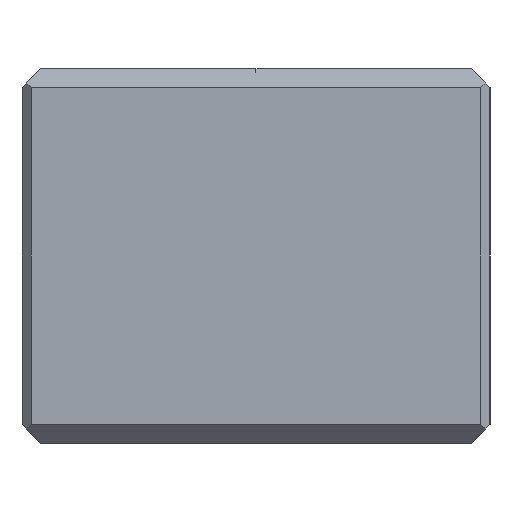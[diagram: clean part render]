
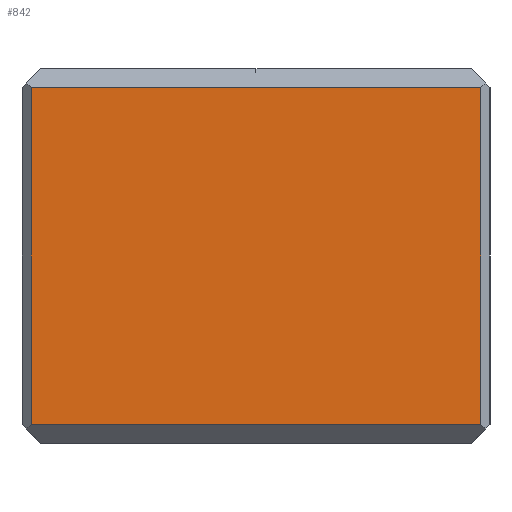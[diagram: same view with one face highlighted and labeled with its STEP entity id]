
A CAD part, left-side view. The second image highlights one B-rep face of the part: STEP entity #842.
In plain terms, the highlighted planar face has unit normal (-1, 0, 0).
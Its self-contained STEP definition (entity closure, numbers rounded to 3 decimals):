
#451=CARTESIAN_POINT('Vertex',(-50.,24.,38.)) ;
#454=CARTESIAN_POINT('Line Origine',(-50.,0.,38.)) ;
#458=CARTESIAN_POINT('Vertex',(-50.,-24.,38.)) ;
#802=CARTESIAN_POINT('Vertex',(-50.,24.,2.)) ;
#805=CARTESIAN_POINT('Line Origine',(-50.,24.,20.)) ;
#819=CARTESIAN_POINT('Axis2P3D Location',(-50.,25.,40.)) ;
#824=CARTESIAN_POINT('Line Origine',(-50.,0.,2.)) ;
#828=CARTESIAN_POINT('Vertex',(-50.,-24.,2.)) ;
#831=CARTESIAN_POINT('Line Origine',(-50.,-24.,20.)) ;
#455=DIRECTION('Vector Direction',(0.,1.,0.)) ;
#806=DIRECTION('Vector Direction',(0.,0.,-1.)) ;
#820=DIRECTION('Axis2P3D Direction',(1.,0.,-0.)) ;
#821=DIRECTION('Axis2P3D XDirection',(-0.,0.,-1.)) ;
#825=DIRECTION('Vector Direction',(0.,-1.,0.)) ;
#832=DIRECTION('Vector Direction',(0.,0.,1.)) ;
#822=AXIS2_PLACEMENT_3D('Plane Axis2P3D',#819,#820,#821) ;
#837=ORIENTED_EDGE('',*,*,#460,.T.) ;
#838=ORIENTED_EDGE('',*,*,#809,.T.) ;
#839=ORIENTED_EDGE('',*,*,#830,.T.) ;
#840=ORIENTED_EDGE('',*,*,#835,.T.) ;
#456=VECTOR('Line Direction',#455,1.) ;
#807=VECTOR('Line Direction',#806,1.) ;
#826=VECTOR('Line Direction',#825,1.) ;
#833=VECTOR('Line Direction',#832,1.) ;
#842=ADVANCED_FACE('Smusso4',(#841),#823,.F.) ;
#460=EDGE_CURVE('',#459,#452,#457,.T.) ;
#809=EDGE_CURVE('',#452,#803,#808,.T.) ;
#830=EDGE_CURVE('',#803,#829,#827,.T.) ;
#835=EDGE_CURVE('',#829,#459,#834,.T.) ;
#836=EDGE_LOOP('',(#837,#838,#839,#840)) ;
#841=FACE_OUTER_BOUND('',#836,.T.) ;
#457=LINE('Line',#454,#456) ;
#808=LINE('Line',#805,#807) ;
#827=LINE('Line',#824,#826) ;
#834=LINE('Line',#831,#833) ;
#823=PLANE('Plane',#822) ;
#452=VERTEX_POINT('',#451) ;
#459=VERTEX_POINT('',#458) ;
#803=VERTEX_POINT('',#802) ;
#829=VERTEX_POINT('',#828) ;
